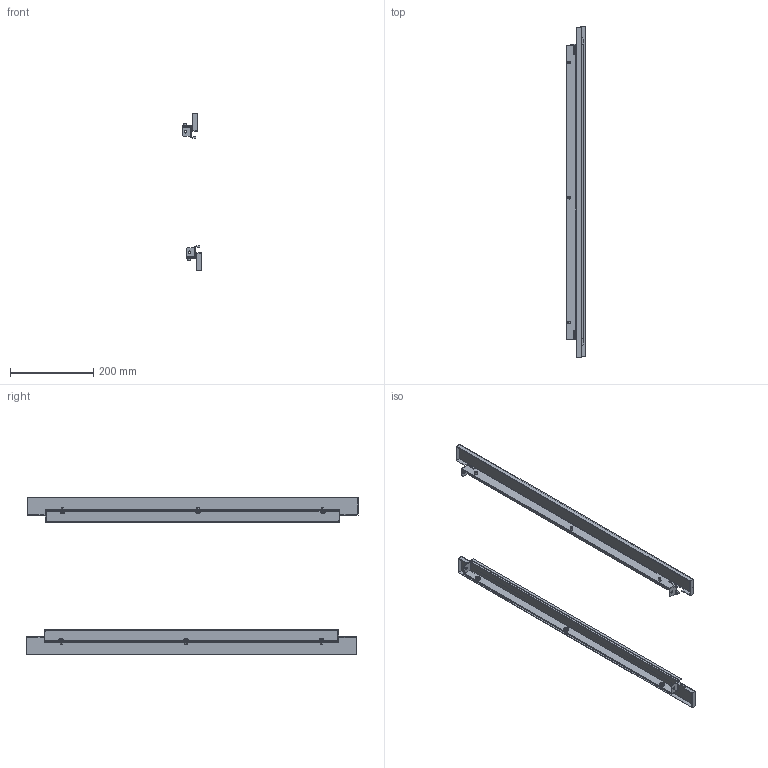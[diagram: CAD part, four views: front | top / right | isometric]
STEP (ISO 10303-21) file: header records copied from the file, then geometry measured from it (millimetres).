
FILE_DESCRIPTION (( 'STEP AP214' ), '1' );
FILE_NAME ('FO-00-PWSK-080 Ôàëüø-ïàíåëü êîìïåíñàöèîííàÿ øèðèíà 800 ìì (2 øò óïàê).STEP', '2025-07-14T08:31:43', ( '' ), ( '' ), 'SwSTEP 2.0', 'SolidWorks 2023', '' );
FILE_SCHEMA (( 'AUTOMOTIVE_DESIGN' ));
Length unit declared in the file: millimetre
Products named in the file (2): FO-00-PWSK-080 Фальш-панель компенсационная ширина 800 мм; FO-00-PWSK-080 Фальш-панель компенсационная ширина 800 мм (2 шт упак)
Assembly tree (2 placements, depth 2):
  FO-00-PWSK-080 Фальш-панель компенсационная ширина 800 мм (2 шт упак)
    FO-00-PWSK-080 Фальш-панель компенсационная ширина 800 мм  x2
Bounding box: 47.38 x 797.75 x 379.04 mm (x, y, z)
Volume: 356634.1 mm3; surface area: 397600.7 mm2
Topology: 2 solids, 2 shells, 342 faces, 890 edges, 576 vertices
Faces by surface type: plane 160, cylinder 134, cone 24, torus 24
Entity records: 5332 total; most frequent: DIRECTION 967, CARTESIAN_POINT 909, ORIENTED_EDGE 890, EDGE_CURVE 445, AXIS2_PLACEMENT_3D 346, VERTEX_POINT 288, VECTOR 275, LINE 275
